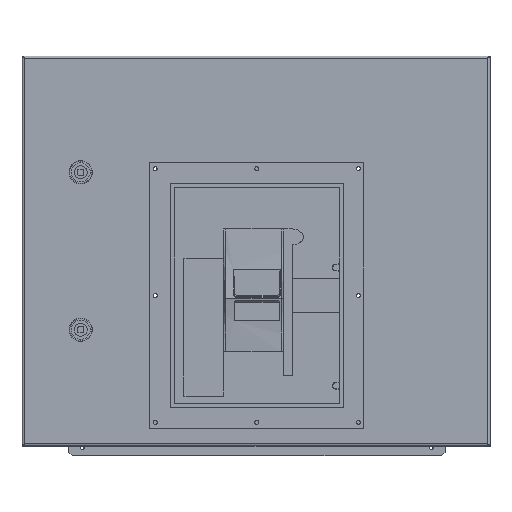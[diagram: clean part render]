
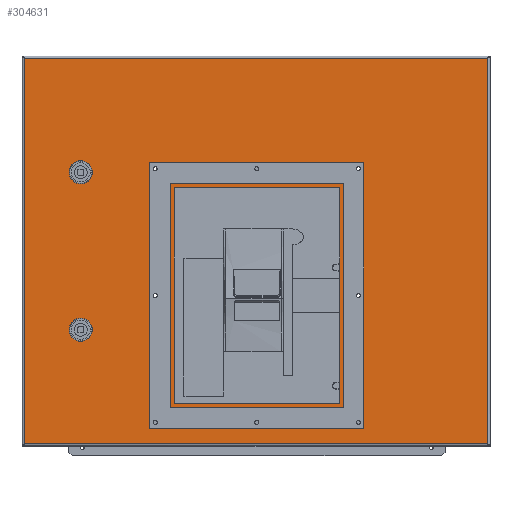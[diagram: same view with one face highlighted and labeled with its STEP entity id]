
A CAD part, top view. The second image highlights one B-rep face of the part: STEP entity #304631.
In plain terms, the highlighted planar face has unit normal (0, 0, 1).
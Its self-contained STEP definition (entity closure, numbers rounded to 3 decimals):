
#296496=CARTESIAN_POINT(' ',(293.1,444.7,26.9));
#296497=VERTEX_POINT(' ',#296496);
#297231=CARTESIAN_POINT(' ',(293.1,-44.7,26.9));
#297232=VERTEX_POINT(' ',#297231);
#298226=CARTESIAN_POINT(' ',(-2.6,304.5,26.9));
#298227=VERTEX_POINT(' ',#298226);
#298266=CARTESIAN_POINT(' ',(2.4,304.5,26.9));
#298267=VERTEX_POINT(' ',#298266);
#298281=CARTESIAN_POINT(' ',(-0.1,304.5,26.9));
#298286=DIRECTION(' ',(0.,0.,1.));
#298291=DIRECTION(' ',(1.,0.,0.));
#298296=AXIS2_PLACEMENT_3D(' ',#298281,#298286,#298291);
#298301=CIRCLE('',#298296,2.5);
#298306=EDGE_CURVE(' ',#298267,#298227,#298301,.T.);
#298361=CARTESIAN_POINT(' ',(-0.1,304.5,26.9));
#298366=DIRECTION(' ',(0.,-0.,1.));
#298371=DIRECTION(' ',(-1.,0.,0.));
#298376=AXIS2_PLACEMENT_3D(' ',#298361,#298366,#298371);
#298381=CIRCLE('',#298376,2.5);
#298386=EDGE_CURVE(' ',#298227,#298267,#298381,.T.);
#298466=CARTESIAN_POINT(' ',(-2.6,-17.5,26.9));
#298467=VERTEX_POINT(' ',#298466);
#298481=CARTESIAN_POINT(' ',(-0.1,-17.5,26.9));
#298486=DIRECTION(' ',(0.,-0.,1.));
#298491=DIRECTION(' ',(-1.,0.,0.));
#298496=AXIS2_PLACEMENT_3D(' ',#298481,#298486,#298491);
#298501=CIRCLE('',#298496,2.5);
#298506=CARTESIAN_POINT(' ',(2.4,-17.5,26.9));
#298507=VERTEX_POINT(' ',#298506);
#298511=EDGE_CURVE(' ',#298467,#298507,#298501,.T.);
#298611=CARTESIAN_POINT(' ',(-0.1,-17.5,26.9));
#298616=DIRECTION(' ',(0.,0.,1.));
#298621=DIRECTION(' ',(1.,0.,0.));
#298626=AXIS2_PLACEMENT_3D(' ',#298611,#298616,#298621);
#298631=CIRCLE('',#298626,2.5);
#298636=EDGE_CURVE(' ',#298507,#298467,#298631,.T.);
#298706=CARTESIAN_POINT(' ',(-131.6,304.5,26.9));
#298707=VERTEX_POINT(' ',#298706);
#298721=CARTESIAN_POINT(' ',(-129.1,304.5,26.9));
#298726=DIRECTION(' ',(0.,-0.,1.));
#298731=DIRECTION(' ',(-1.,0.,0.));
#298736=AXIS2_PLACEMENT_3D(' ',#298721,#298726,#298731);
#298741=CIRCLE('',#298736,2.5);
#298746=CARTESIAN_POINT(' ',(-126.6,304.5,26.9));
#298747=VERTEX_POINT(' ',#298746);
#298751=EDGE_CURVE(' ',#298707,#298747,#298741,.T.);
#298851=CARTESIAN_POINT(' ',(-129.1,304.5,26.9));
#298856=DIRECTION(' ',(0.,0.,1.));
#298861=DIRECTION(' ',(1.,0.,0.));
#298866=AXIS2_PLACEMENT_3D(' ',#298851,#298856,#298861);
#298871=CIRCLE('',#298866,2.5);
#298876=EDGE_CURVE(' ',#298747,#298707,#298871,.T.);
#298946=CARTESIAN_POINT(' ',(-131.6,-17.5,26.9));
#298947=VERTEX_POINT(' ',#298946);
#298961=CARTESIAN_POINT(' ',(-129.1,-17.5,26.9));
#298966=DIRECTION(' ',(0.,-0.,1.));
#298971=DIRECTION(' ',(-1.,0.,0.));
#298976=AXIS2_PLACEMENT_3D(' ',#298961,#298966,#298971);
#298981=CIRCLE('',#298976,2.5);
#298986=CARTESIAN_POINT(' ',(-126.6,-17.5,26.9));
#298987=VERTEX_POINT(' ',#298986);
#298991=EDGE_CURVE(' ',#298947,#298987,#298981,.T.);
#299091=CARTESIAN_POINT(' ',(-129.1,-17.5,26.9));
#299096=DIRECTION(' ',(0.,0.,1.));
#299101=DIRECTION(' ',(1.,0.,0.));
#299106=AXIS2_PLACEMENT_3D(' ',#299091,#299096,#299101);
#299111=CIRCLE('',#299106,2.5);
#299116=EDGE_CURVE(' ',#298987,#298947,#299111,.T.);
#299186=CARTESIAN_POINT(' ',(-131.6,143.5,26.9));
#299187=VERTEX_POINT(' ',#299186);
#299226=CARTESIAN_POINT(' ',(-126.6,143.5,26.9));
#299227=VERTEX_POINT(' ',#299226);
#299241=CARTESIAN_POINT(' ',(-129.1,143.5,26.9));
#299246=DIRECTION(' ',(0.,0.,1.));
#299251=DIRECTION(' ',(1.,0.,0.));
#299256=AXIS2_PLACEMENT_3D(' ',#299241,#299246,#299251);
#299261=CIRCLE('',#299256,2.5);
#299266=EDGE_CURVE(' ',#299227,#299187,#299261,.T.);
#299321=CARTESIAN_POINT(' ',(-129.1,143.5,26.9));
#299326=DIRECTION(' ',(0.,-0.,1.));
#299331=DIRECTION(' ',(-1.,0.,0.));
#299336=AXIS2_PLACEMENT_3D(' ',#299321,#299326,#299331);
#299341=CIRCLE('',#299336,2.5);
#299346=EDGE_CURVE(' ',#299187,#299227,#299341,.T.);
#299426=CARTESIAN_POINT(' ',(126.4,143.5,26.9));
#299427=VERTEX_POINT(' ',#299426);
#299466=CARTESIAN_POINT(' ',(131.4,143.5,26.9));
#299467=VERTEX_POINT(' ',#299466);
#299481=CARTESIAN_POINT(' ',(128.9,143.5,26.9));
#299486=DIRECTION(' ',(0.,0.,1.));
#299491=DIRECTION(' ',(1.,0.,0.));
#299496=AXIS2_PLACEMENT_3D(' ',#299481,#299486,#299491);
#299501=CIRCLE('',#299496,2.5);
#299506=EDGE_CURVE(' ',#299467,#299427,#299501,.T.);
#299561=CARTESIAN_POINT(' ',(128.9,143.5,26.9));
#299566=DIRECTION(' ',(0.,-0.,1.));
#299571=DIRECTION(' ',(-1.,0.,0.));
#299576=AXIS2_PLACEMENT_3D(' ',#299561,#299566,#299571);
#299581=CIRCLE('',#299576,2.5);
#299586=EDGE_CURVE(' ',#299427,#299467,#299581,.T.);
#299666=CARTESIAN_POINT(' ',(126.4,-17.5,26.9));
#299667=VERTEX_POINT(' ',#299666);
#299706=CARTESIAN_POINT(' ',(131.4,-17.5,26.9));
#299707=VERTEX_POINT(' ',#299706);
#299721=CARTESIAN_POINT(' ',(128.9,-17.5,26.9));
#299726=DIRECTION(' ',(0.,0.,1.));
#299731=DIRECTION(' ',(1.,0.,0.));
#299736=AXIS2_PLACEMENT_3D(' ',#299721,#299726,#299731);
#299741=CIRCLE('',#299736,2.5);
#299746=EDGE_CURVE(' ',#299707,#299667,#299741,.T.);
#299801=CARTESIAN_POINT(' ',(128.9,-17.5,26.9));
#299806=DIRECTION(' ',(0.,-0.,1.));
#299811=DIRECTION(' ',(-1.,0.,0.));
#299816=AXIS2_PLACEMENT_3D(' ',#299801,#299806,#299811);
#299821=CIRCLE('',#299816,2.5);
#299826=EDGE_CURVE(' ',#299667,#299707,#299821,.T.);
#299906=CARTESIAN_POINT(' ',(126.4,304.5,26.9));
#299907=VERTEX_POINT(' ',#299906);
#299946=CARTESIAN_POINT(' ',(131.4,304.5,26.9));
#299947=VERTEX_POINT(' ',#299946);
#299961=CARTESIAN_POINT(' ',(128.9,304.5,26.9));
#299966=DIRECTION(' ',(0.,0.,1.));
#299971=DIRECTION(' ',(1.,0.,0.));
#299976=AXIS2_PLACEMENT_3D(' ',#299961,#299966,#299971);
#299981=CIRCLE('',#299976,2.5);
#299986=EDGE_CURVE(' ',#299947,#299907,#299981,.T.);
#300041=CARTESIAN_POINT(' ',(128.9,304.5,26.9));
#300046=DIRECTION(' ',(0.,-0.,1.));
#300051=DIRECTION(' ',(-1.,0.,0.));
#300056=AXIS2_PLACEMENT_3D(' ',#300041,#300046,#300051);
#300061=CIRCLE('',#300056,2.5);
#300066=EDGE_CURVE(' ',#299907,#299947,#300061,.T.);
#300126=CARTESIAN_POINT(' ',(293.1,444.7,26.9));
#300131=DIRECTION(' ',(0.,-1.,0.));
#300136=VECTOR(' ',#300131,1.);
#300141=LINE('',#300126,#300136);
#300146=EDGE_CURVE(' ',#296497,#297232,#300141,.T.);
#302356=CARTESIAN_POINT(' ',(-295.3,-44.7,26.9));
#302357=VERTEX_POINT(' ',#302356);
#302971=CARTESIAN_POINT(' ',(-295.3,444.7,26.9));
#302972=VERTEX_POINT(' ',#302971);
#304341=DIRECTION(' ',(-0.,-0.,1.));
#304346=CARTESIAN_POINT(' ',(293.1,-44.7,26.9));
#304351=DIRECTION(' ',(0.,1.,0.));
#304356=AXIS2_PLACEMENT_3D(' ',#304346,#304341,#304351);
#304361=PLANE('NONE',#304356);
#304366=CARTESIAN_POINT(' ',(-295.3,-44.7,26.9));
#304371=DIRECTION(' ',(1.,0.,0.));
#304376=VECTOR(' ',#304371,1.);
#304381=LINE('',#304366,#304376);
#304386=EDGE_CURVE(' ',#302357,#297232,#304381,.T.);
#304391=ORIENTED_EDGE(' ',*,*,#304386,.T.);
#304396=ORIENTED_EDGE(' ',*,*,#300146,.F.);
#304401=CARTESIAN_POINT(' ',(293.1,444.7,26.9));
#304406=DIRECTION(' ',(-1.,0.,0.));
#304411=VECTOR(' ',#304406,1.);
#304416=LINE('',#304401,#304411);
#304421=EDGE_CURVE(' ',#296497,#302972,#304416,.T.);
#304426=ORIENTED_EDGE(' ',*,*,#304421,.T.);
#304431=CARTESIAN_POINT(' ',(-295.3,444.7,26.9));
#304436=DIRECTION(' ',(0.,-1.,0.));
#304441=VECTOR(' ',#304436,1.);
#304446=LINE('',#304431,#304441);
#304451=EDGE_CURVE(' ',#302972,#302357,#304446,.T.);
#304456=ORIENTED_EDGE(' ',*,*,#304451,.T.);
#304461=EDGE_LOOP(' ',(#304391,#304396,#304426,#304456));
#304466=FACE_OUTER_BOUND(' ',#304461,.T.);
#304471=ORIENTED_EDGE(' ',*,*,#298386,.F.);
#304476=ORIENTED_EDGE(' ',*,*,#298306,.F.);
#304481=EDGE_LOOP(' ',(#304471,#304476));
#304486=FACE_BOUND(' ',#304481,.T.);
#304491=ORIENTED_EDGE(' ',*,*,#298636,.F.);
#304496=ORIENTED_EDGE(' ',*,*,#298511,.F.);
#304501=EDGE_LOOP(' ',(#304491,#304496));
#304506=FACE_BOUND(' ',#304501,.T.);
#304511=ORIENTED_EDGE(' ',*,*,#298876,.F.);
#304516=ORIENTED_EDGE(' ',*,*,#298751,.F.);
#304521=EDGE_LOOP(' ',(#304511,#304516));
#304526=FACE_BOUND(' ',#304521,.T.);
#304531=ORIENTED_EDGE(' ',*,*,#299116,.F.);
#304536=ORIENTED_EDGE(' ',*,*,#298991,.F.);
#304541=EDGE_LOOP(' ',(#304531,#304536));
#304546=FACE_BOUND(' ',#304541,.T.);
#304551=ORIENTED_EDGE(' ',*,*,#299266,.F.);
#304556=ORIENTED_EDGE(' ',*,*,#299346,.F.);
#304561=EDGE_LOOP(' ',(#304551,#304556));
#304566=FACE_BOUND(' ',#304561,.T.);
#304571=ORIENTED_EDGE(' ',*,*,#299506,.F.);
#304576=ORIENTED_EDGE(' ',*,*,#299586,.F.);
#304581=EDGE_LOOP(' ',(#304571,#304576));
#304586=FACE_BOUND(' ',#304581,.T.);
#304591=ORIENTED_EDGE(' ',*,*,#299826,.F.);
#304596=ORIENTED_EDGE(' ',*,*,#299746,.F.);
#304601=EDGE_LOOP(' ',(#304591,#304596));
#304606=FACE_BOUND(' ',#304601,.T.);
#304611=ORIENTED_EDGE(' ',*,*,#300066,.F.);
#304616=ORIENTED_EDGE(' ',*,*,#299986,.F.);
#304621=EDGE_LOOP(' ',(#304611,#304616));
#304626=FACE_BOUND(' ',#304621,.T.);
#304631=ADVANCED_FACE('NONE',(#304466,#304486,#304506,#304526,#304546,#304566,#304586,#304606,#304626),#304361,.T.);
